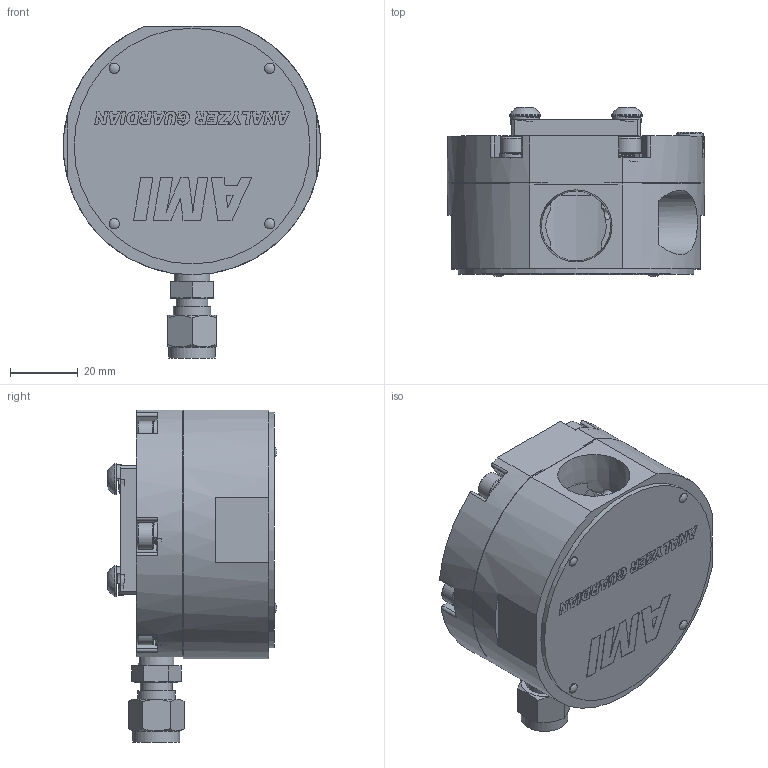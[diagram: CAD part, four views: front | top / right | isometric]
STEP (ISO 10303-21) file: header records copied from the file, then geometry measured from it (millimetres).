
FILE_DESCRIPTION (( 'STEP AP214' ), '1' );
FILE_NAME ('5GRD02C.STEP', '2022-12-01T20:53:48', ( '' ), ( '' ), 'SwSTEP 2.0', 'SolidWorks 2022', '' );
FILE_SCHEMA (( 'AUTOMOTIVE_DESIGN' ));
Length unit declared in the file: inch
Products named in the file (1): 5GRD02C
Bounding box: 76.2 x 50.14 x 98.31 mm (x, y, z)
Surface area: 39859.6 mm2 (no closed solid volume)
Topology: 0 solids, 32 shells, 575 faces, 1546 edges, 1016 vertices
Faces by surface type: plane 361, cone 91, bspline 66, cylinder 49, sphere 8
Full cylindrical faces by diameter (mm): 3.048 x4, 3.175 x1, 6.35 x1, 7.938 x6, 9.169 x4, 9.42 x1, 11.11 x1, 13.9 x1, 69.799 x1
Entity records: 37106 total; most frequent: CARTESIAN_POINT 16235, ORIENTED_EDGE 2659, DIRECTION 2487, EDGE_CURVE 1495, VERTEX_POINT 1007, VECTOR 867, LINE 867, AXIS2_PLACEMENT_3D 810
